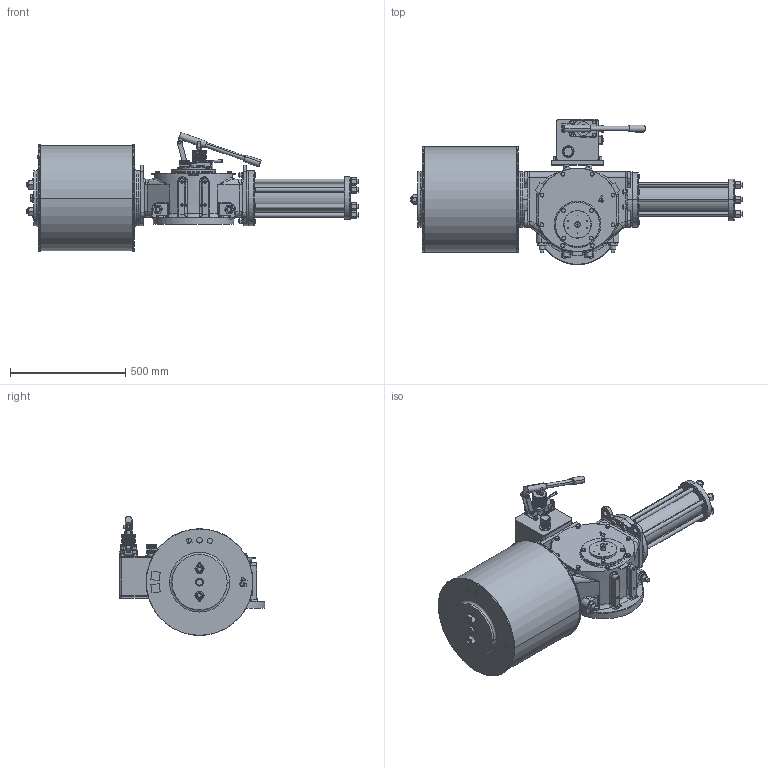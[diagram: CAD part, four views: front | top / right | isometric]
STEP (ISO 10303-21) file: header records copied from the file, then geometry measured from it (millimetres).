
FILE_DESCRIPTION (( 'STEP AP203' ), '1' );
FILE_NAME ('VTS4-450-MH.STEP', '2023-01-01T09:34:15', ( '' ), ( '' ), 'SwSTEP 2.0', 'SolidWorks 2020', '' );
FILE_SCHEMA (( 'CONFIG_CONTROL_DESIGN' ));
Length unit declared in the file: millimetre
Products named in the file (1): VTS4-450-MH
Bounding box: 1442 x 631.4 x 517.27 mm (x, y, z)
Volume: 108502734.6 mm3; surface area: 3043759.8 mm2
Topology: 71 solids, 74 shells, 2727 faces, 6659 edges, 4192 vertices
Faces by surface type: plane 1157, cylinder 881, cone 571, bspline 106, torus 12
Entity records: 93516 total; most frequent: CARTESIAN_POINT 29517, DIRECTION 13486, ORIENTED_EDGE 13182, EDGE_CURVE 6591, AXIS2_PLACEMENT_3D 5231, VERTEX_POINT 4192, EDGE_LOOP 3101, VECTOR 3024
